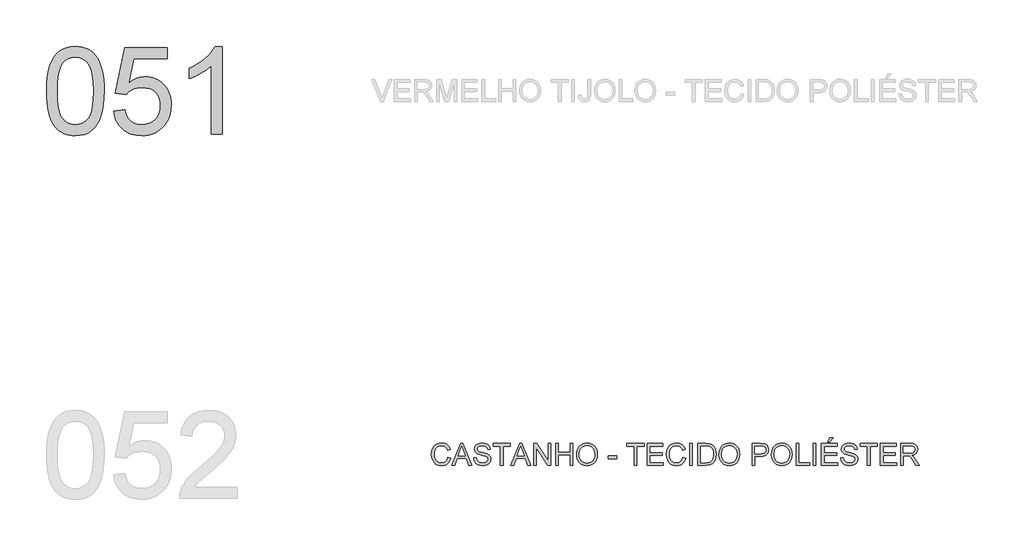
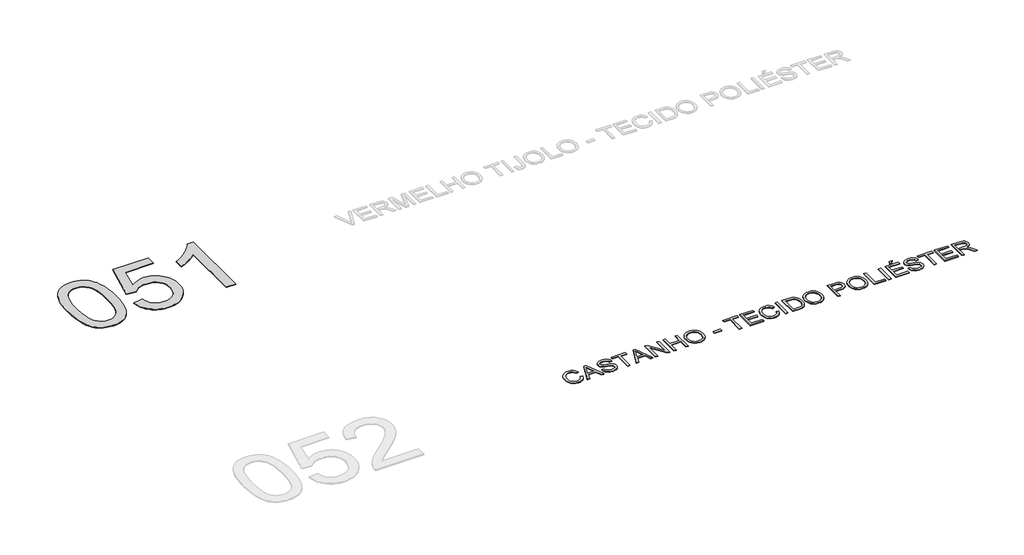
# One storey, part 23 of 35: 2 proxies.
"""IFC4 building model written with IfcOpenShell, lengths in millimetres."""

import ifcopenshell
import ifcopenshell.guid

model = None  # the IFC model being written
_history = None  # IfcOwnerHistory: only IFC2X3 demands one
_inside = {}  # id of a spatial element -> (the spatial element, [elements in it])
_under = {}  # id of a project, library or spatial element -> (it, [spatial elements below it])
_declared = {}  # id of a project -> (the project, [libraries it declares])
_typed = {}  # id of a type object -> (the type object, [elements of that type])
_made_of = {}  # id of a material, layer set ... -> (it, [elements and type objects made of it])


def new_model(schema):
    """Start an empty IFC model of exactly this schema.

    Asked for "IFC4X3", IfcOpenShell would pick the latest addendum, in which some entities
    have other attributes; the version numbers below select the first issue.
    IFC2X3 requires an IfcOwnerHistory on every rooted entity: one is made here for all.
    """
    global model, _history
    if schema == "IFC4X3":
        model = ifcopenshell.file(schema_version=(4, 3, 0, 0))
    else:
        model = ifcopenshell.file(schema=schema)
    _inside.clear()
    _under.clear()
    _declared.clear()
    _typed.clear()
    _made_of.clear()
    _history = None
    if model.schema == "IFC2X3":
        org = make("IfcOrganization", Name="unknown")
        user = make(
            "IfcPersonAndOrganization",
            ThePerson=make("IfcPerson", FamilyName="unknown"),
            TheOrganization=org,
        )
        app = make(
            "IfcApplication",
            ApplicationDeveloper=org,
            Version="unknown",
            ApplicationFullName="unknown",
            ApplicationIdentifier="unknown",
        )
        _history = make(
            "IfcOwnerHistory",
            OwningUser=user,
            OwningApplication=app,
            ChangeAction="ADDED",
            CreationDate=0,
        )
    return model


def make(cls, **values):
    """One entity of the class cls with the attributes given. An attribute that is None is left unset."""
    return model.create_entity(
        cls, **{name: value for name, value in values.items() if value is not None}
    )


def rooted(cls, **values):
    """An entity with a GlobalId (a new one), such as an element, a storey or a relation."""
    return make(cls, GlobalId=ifcopenshell.guid.new(), OwnerHistory=_history, **values)


def si_unit(unit_type, name, prefix=None):
    """IfcSIUnit, for example si_unit("LENGTHUNIT", "METRE", prefix="MILLI")."""
    return make("IfcSIUnit", UnitType=unit_type, Prefix=prefix, Name=name)


def assignment(units):
    """IfcUnitAssignment: the units of a project."""
    return None if units is None else make("IfcUnitAssignment", Units=units)


def point(xyz):
    """IfcCartesianPoint."""
    return None if xyz is None else make("IfcCartesianPoint", Coordinates=xyz)


def direction(xyz):
    """IfcDirection."""
    return None if xyz is None else make("IfcDirection", DirectionRatios=xyz)


def frame(location, z_axis=None, x_axis=None):
    """IfcAxis2Placement3D, a coordinate frame: its origin and axes. An axis left out is left unset."""
    return make(
        "IfcAxis2Placement3D",
        Location=point(location),
        Axis=direction(z_axis),
        RefDirection=direction(x_axis),
    )


def origin():
    """The frame at (0, 0, 0) with its axes left unset."""
    return frame((0.0, 0.0, 0.0))


def origin_with_axes():
    """The frame at (0, 0, 0) with the z axis (0, 0, 1) and the x axis (1, 0, 0) written out."""
    return frame((0.0, 0.0, 0.0), z_axis=(0.0, 0.0, 1.0), x_axis=(1.0, 0.0, 0.0))


def place(relative_to, where):
    """IfcLocalPlacement: puts the frame where relative to a parent placement (None: the world)."""
    return make(
        "IfcLocalPlacement", PlacementRelTo=relative_to, RelativePlacement=where
    )


def context(
    kind, dimensions, precision=None, world=None, true_north=None, identifier=None
):
    """IfcGeometricRepresentationContext, for example the 3D "Model" context."""
    return make(
        "IfcGeometricRepresentationContext",
        ContextIdentifier=identifier,
        ContextType=kind,
        CoordinateSpaceDimension=dimensions,
        Precision=precision,
        WorldCoordinateSystem=world,
        TrueNorth=true_north,
    )


def project(units=None, contexts=None):
    """IfcProject with its units and contexts."""
    return rooted(
        "IfcProject",
        Name="project",
        RepresentationContexts=contexts,
        UnitsInContext=assignment(units),
    )


def spatial(cls, under=None, at=None, **own):
    """A site, building, storey or space (cls), placed at a placement, below another one or the project."""
    s = rooted(cls, ObjectPlacement=at, **own)
    if under is not None:
        _under.setdefault(under.id(), (under, []))[1].append(s)
    return s


def polyline(points):
    """IfcPolyline through the points."""
    return make("IfcPolyline", Points=[point(p) for p in points])


def outline(outer, holes=None, kind="AREA"):
    """IfcArbitraryClosedProfileDef: a profile drawn as a closed curve; with holes, ...WithVoids."""
    if holes is None:
        return make("IfcArbitraryClosedProfileDef", ProfileType=kind, OuterCurve=outer)
    return make(
        "IfcArbitraryProfileDefWithVoids",
        ProfileType=kind,
        OuterCurve=outer,
        InnerCurves=holes,
    )


def extrude(swept, where, along, depth):
    """IfcExtrudedAreaSolid: the profile swept, set in the frame where, extruded along a direction by depth."""
    return make(
        "IfcExtrudedAreaSolid",
        SweptArea=swept,
        Position=where,
        ExtrudedDirection=direction(along),
        Depth=depth,
    )


def shape(context_of_items, identifier, shape_type, items):
    """IfcShapeRepresentation: the items that make up one representation, for example the "Body"."""
    return make(
        "IfcShapeRepresentation",
        ContextOfItems=context_of_items,
        RepresentationIdentifier=identifier,
        RepresentationType=shape_type,
        Items=items,
    )


def made_of(thing, what):
    """Note that an element or type object is made of a material, layer set ...; save() writes the relation."""
    if what is not None:
        _made_of.setdefault(what.id(), (what, []))[1].append(thing)
    return thing


def element(
    cls,
    number,
    at=None,
    inside=None,
    cuts=None,
    type_object=None,
    material=None,
    context=None,
    identifier="Body",
    shape_type=None,
    held_by="IfcProductDefinitionShape",
    body=None,
    shapes=None,
    **own,
):
    """One element of the class cls, such as IfcWall. Its Tag is "e" and its number.

    at: its placement. inside: the storey or other place that contains it. cuts: it is an
    opening in that element (IfcRelVoidsElement). A single representation is given by context,
    identifier, shape_type and body (its items); several are given by shapes. held_by: the class
    of the entity that holds the representations. save() writes the other relations.
    """
    e = rooted(cls, Tag="e%d" % number, ObjectPlacement=at, **own)
    if body is not None:
        shapes = [shape(context, identifier, shape_type, body)]
    if shapes is not None:
        e.Representation = make(held_by, Representations=shapes)
    if inside is not None:
        _inside.setdefault(inside.id(), (inside, []))[1].append(e)
    if cuts is not None:
        rooted(
            "IfcRelVoidsElement", RelatingBuildingElement=cuts, RelatedOpeningElement=e
        )
    if type_object is not None:
        _typed.setdefault(type_object.id(), (type_object, []))[1].append(e)
    return made_of(e, material)


def aggregate(whole, parts):
    """IfcRelAggregates: a whole, such as a stair, and the parts it consists of."""
    return rooted("IfcRelAggregates", RelatingObject=whole, RelatedObjects=parts)


def save(model, path):
    """Write the relations noted so far, then the file.

    IfcRelAggregates (storeys below a building ...), IfcRelContainedInSpatialStructure (elements
    in a storey), IfcRelDefinesByType, IfcRelAssociatesMaterial and IfcRelDeclares: one each for
    every whole, place, type object, material and project.
    """
    for whole, parts in _under.values():
        aggregate(whole, parts)
    for where, things in _inside.values():
        rooted(
            "IfcRelContainedInSpatialStructure",
            RelatedElements=things,
            RelatingStructure=where,
        )
    for kind, things in _typed.values():
        rooted("IfcRelDefinesByType", RelatedObjects=things, RelatingType=kind)
    for what, things in _made_of.values():
        rooted("IfcRelAssociatesMaterial", RelatedObjects=things, RelatingMaterial=what)
    for by, libraries in _declared.values():
        rooted("IfcRelDeclares", RelatingContext=by, RelatedDefinitions=libraries)
    model.write(path)


model = new_model("IFC4")

# Units and contexts
model_context = context("Model", 3, world=origin())
ifc_project = project(units=[si_unit("LENGTHUNIT", "METRE", prefix="MILLI")], contexts=[model_context])

# Site, building, storey
site = spatial("IfcSite", under=ifc_project)
building = spatial("IfcBuilding", under=site)
storey = spatial("IfcBuildingStorey", under=building, Name="Marelli - Linha YOU - Planta Baixa", Elevation=0.0)

# Proxies
placement = place(None, origin())
element("IfcBuildingElementProxy", 1, Name="1200mm Arial", ObjectType="1200mm Arial", at=placement, inside=storey, context=model_context, shape_type="SweptSolid", body=[
    extrude(outline(polyline([(-25228.2202746, -24887.5405438), (-25225.4519626, -24786.1798571), (-25217.1470265, -24694.5864374), (-25203.3054665, -24612.7602846), (-25183.9272824, -24540.7013988), (-25159.0952477, -24477.8211688), (-25128.8921359, -24423.5309833), (-25093.317947, -24377.8308425), (-25052.3726809, -24340.7207462), (-25005.918382, -24312.0075565), (-24953.8170944, -24291.4981353), (-24896.0688182, -24279.1924825), (-24832.6735534, -24275.0905983), (-24785.032835, -24277.5186194), (-24739.8201378, -24284.8026829), (-24697.0354618, -24296.9427888), (-24656.6788069, -24313.938937), (-24619.7250605, -24335.5060189), (-24587.1491098, -24361.3589261), (-24558.9509549, -24391.4976586), (-24535.1305957, -24425.9222163), (-24514.4924157, -24464.4946435), (-24495.8407986, -24507.0769844), (-24464.4972526, -24604.2714076), (-24452.5226937, -24661.4310726), (-24443.9694373, -24727.6958169), (-24438.8374834, -24803.0656407), (-24437.1268322, -24887.5405438), (-24439.867553, -24988.2574371), (-24448.0897156, -25079.3910043), (-24461.7933199, -25160.9412456), (-24480.978366, -25232.9081609), (-24505.6172626, -25295.8159821), (-24535.6824187, -25350.188941), (-24571.1738342, -25396.0270376), (-24612.0915091, -25433.3302719), (-24658.6009903, -25462.2365997), (-24710.8678248, -25482.8839766), (-24768.8920125, -25495.2724028), (-24832.6735534, -25499.4018782), (-24875.3478648, -25497.6084535), (-24915.6677315, -25492.2281793), (-24953.6331534, -25483.2610557), (-24989.2441305, -25470.7070826), (-25022.5006629, -25454.5662601), (-25053.4027505, -25434.8385881), (-25081.9503933, -25411.5240666), (-25108.1435914, -25384.6226957), (-25136.286564, -25342.0265592), (-25160.6771403, -25293.8478134), (-25181.3153202, -25240.0864583), (-25198.2011038, -25180.742494), (-25211.334491, -25115.8159204), (-25220.7154819, -25045.3067375), (-25226.3440764, -24969.2149453), (-25228.2202746, -24887.5405438)]), holes=[polyline([(-25077.5358094, -24887.2462382), (-25073.1212254, -25018.2398197), (-25059.8774736, -25124.2726077), (-25049.9446597, -25167.9287043), (-25037.8045539, -25205.3446024), (-25023.4571561, -25236.5203023), (-25006.9024663, -25261.4558037), (-24969.5256556, -25299.6327578), (-24928.0285665, -25326.9020107), (-24882.4111991, -25343.2635624), (-24832.6735534, -25348.717413), (-24782.9359076, -25343.2451683), (-24737.3185402, -25326.8284343), (-24695.8214512, -25299.4672109), (-24658.4446405, -25261.1614981), (-24641.8899507, -25236.1662158), (-24627.5425529, -25204.9583263), (-24615.402447, -25167.5378296), (-24605.4696332, -25123.9047257), (-24592.2258813, -25018.0006964), (-24587.8112974, -24887.2462382), (-24592.0787285, -24759.7199446), (-24604.881022, -24655.5541577), (-24614.482742, -24612.2314542), (-24626.2181777, -24574.7488774), (-24640.0873289, -24543.1064273), (-24656.0901957, -24517.3041039), (-24692.841607, -24477.2601487), (-24734.8169427, -24448.6573236), (-24782.0162026, -24431.4956285), (-24834.4393869, -24425.7750635), (-24883.9195153, -24430.8150468), (-24928.7643305, -24445.9349968), (-24968.9738326, -24471.1349135), (-25004.5480215, -24506.4147968), (-25021.6545343, -24534.9624397), (-25036.4801787, -24568.954736), (-25049.0249547, -24608.3916859), (-25059.2888624, -24653.2732893), (-25072.9740726, -24759.3704567), (-25077.5358094, -24887.2462382)])]), origin_with_axes(), (0.0, 0.0, 1.0), 10.0),
    extrude(outline(polyline([(-24305.2779251, -25160.3618315), (-24154.5934599, -25141.5262733), (-24143.3362708, -25189.967135), (-24126.9287338, -25231.9884559), (-24105.3708489, -25267.590236), (-24078.6626161, -25296.7724753), (-24046.8592176, -25319.4983855), (-24010.0158358, -25335.7311786), (-23968.1324706, -25345.4708544), (-23921.2091221, -25348.717413), (-23863.8195309, -25344.2016615), (-23813.1989683, -25330.654407), (-23769.3474345, -25308.0756496), (-23732.2649294, -25276.4653891), (-23702.7791875, -25237.3871242), (-23681.7179433, -25192.4043532), (-23669.0811967, -25141.5170763), (-23664.8689479, -25084.7252933), (-23668.8144823, -25031.0513102), (-23680.6510855, -24983.3370154), (-23700.3787575, -24941.5824089), (-23727.9974983, -24905.7874908), (-23763.5992783, -24877.0743011), (-23807.2760682, -24856.5648798), (-23859.0278679, -24844.2592271), (-23918.8546774, -24840.1573429), (-23957.141996, -24841.7944177), (-23991.9528298, -24846.7056424), (-24023.2871787, -24854.8910168), (-24051.1450428, -24866.3505409), (-24098.4178792, -24896.4432881), (-24135.7579017, -24934.3351336), (-24286.4423669, -24915.4995755), (-24154.5934599, -24293.9261564), (-23570.6911571, -24293.9261564), (-23570.6911571, -24444.6106216), (-24032.7509431, -24444.6106216), (-24097.2038686, -24776.5873341), (-24044.0265262, -24738.4747594), (-23989.5615968, -24711.2514918), (-23933.8090805, -24694.9175312), (-23876.7689771, -24689.4728776), (-23839.3300863, -24691.1605363), (-23803.3857161, -24696.2235123), (-23768.9358665, -24704.6618055), (-23735.9805376, -24716.4754161), (-23704.5197292, -24731.664344), (-23674.5534414, -24750.2285891), (-23646.0816742, -24772.1681516), (-23619.1044277, -24797.4830314), (-23594.5138156, -24825.4512601), (-23573.2019517, -24855.3508693), (-23555.1688362, -24887.1818589), (-23540.4144689, -24920.944229), (-23528.9388499, -24956.6379796), (-23520.7419792, -24994.2631106), (-23515.8238568, -25033.8196222), (-23514.1844827, -25075.3075142), (-23520.0889887, -25153.3720736), (-23527.4696212, -25190.3626082), (-23537.8025067, -25225.9919794), (-23551.0876453, -25260.2601873), (-23567.3250369, -25293.1672317), (-23586.5146814, -25324.7131128), (-23608.656579, -25354.8978305), (-23638.6573557, -25388.7659667), (-23671.2700946, -25418.1183514), (-23706.4947956, -25442.9549846), (-23744.3314588, -25463.2758663), (-23784.7800842, -25479.0809965), (-23827.8406717, -25490.3703752), (-23873.5132214, -25497.1440025), (-23921.7977333, -25499.4018782), (-23999.55879, -25493.5985397), (-24035.6181234, -25486.3443667), (-24069.79666, -25476.1885243), (-24102.0943999, -25463.1310128), (-24132.5113431, -25447.171832), (-24161.0474896, -25428.3109819), (-24187.7028394, -25406.5484626), (-24212.0405327, -25382.3901119), (-24233.6237095, -25356.3417673), (-24252.4523698, -25328.4034291), (-24268.5265138, -25298.5750971), (-24281.8461413, -25266.8567713), (-24292.4112523, -25233.2484518), (-24305.2779251, -25160.3618315)])), origin_with_axes(), (0.0, 0.0, 1.0), 10.0),
    extrude(outline(polyline([(-22817.268831, -25480.5663201), (-22967.9532962, -25480.5663201), (-22967.9532962, -24541.1428572), (-23030.8611174, -24592.0209371), (-23110.6915103, -24642.8254407), (-23194.4950289, -24687.2287975), (-23269.3222267, -24718.9034373), (-23269.3222267, -24576.4595287), (-23208.171042, -24545.7965644), (-23150.9745888, -24512.0801796), (-23097.7328671, -24475.3103741), (-23048.4458768, -24435.4871482), (-23004.5851459, -24394.4499116), (-22967.6222024, -24354.0380744), (-22937.5570464, -24314.2516367), (-22914.3896777, -24275.0905983), (-22817.268831, -24275.0905983), (-22817.268831, -25480.5663201)])), origin_with_axes(), (0.0, 0.0, 1.0), 10.0),
])
element("IfcBuildingElementProxy", 2, Name="300mm Arial", ObjectType="300mm Arial", at=placement, inside=storey, context=model_context, shape_type="SweptSolid", body=[
    extrude(outline(polyline([(-19717.7261045, -29923.4390831), (-19680.0549882, -29933.1511677), (-19687.5091971, -29956.5783531), (-19697.4374125, -29977.0486868), (-19709.8396342, -29994.5621691), (-19724.7158624, -30009.1187997), (-19741.7304047, -30020.5622291), (-19760.5475687, -30028.7361071), (-19781.1673546, -30033.640434), (-19803.5897622, -30035.2752096), (-19847.2849462, -30030.3271968), (-19881.9854153, -30015.4831583), (-19908.5832836, -29991.2581289), (-19927.9706647, -29958.1671434), (-19939.8072679, -29919.2636224), (-19943.7528023, -29877.6009865), (-19939.2922331, -29833.6574821), (-19925.9105256, -29795.7104543), (-19904.3066554, -29764.9647166), (-19875.1795984, -29742.6250824), (-19840.6354791, -29729.0226457), (-19802.7804218, -29724.4885001), (-19761.4764708, -29730.3562179), (-19743.5077346, -29737.6908652), (-19727.3278246, -29747.9593714), (-19713.2034552, -29760.8904235), (-19701.401341, -29776.2127086), (-19684.7638777, -29814.0309777), (-19722.434994, -29823.0072984), (-19735.4948049, -29795.5357104), (-19753.3370816, -29776.6909552), (-19776.1825535, -29765.7924511), (-19804.2519498, -29762.1596164), (-19836.6071712, -29766.1879242), (-19863.1866454, -29778.2728478), (-19883.3557758, -29797.1451941), (-19896.479966, -29821.5357704), (-19903.681256, -29849.1085259), (-19906.081686, -29877.5274101), (-19903.2397976, -29912.3290468), (-19894.7141324, -29942.421794), (-19880.1827936, -29966.6560205), (-19859.3238844, -29983.8820949), (-19834.3171058, -29994.1735937), (-19807.3421585, -29997.6040933), (-19775.897445, -29992.931992), (-19749.6950499, -29978.9156879), (-19729.9121956, -29955.702334), (-19717.7261045, -29923.4390831)])), origin_with_axes(), (0.0, 0.0, 1.0), 10.0),
    extrude(outline(polyline([(-19663.3531456, -30030.5663201), (-19543.0557332, -29729.1973896), (-19510.9764232, -29729.1973896), (-19390.6790108, -30030.5663201), (-19430.4838427, -30030.5663201), (-19464.9911738, -29936.3885293), (-19589.114559, -29936.3885293), (-19623.5483137, -30030.5663201), (-19663.3531456, -30030.5663201)]), holes=[polyline([(-19575.282196, -29898.717413), (-19478.7499604, -29898.717413), (-19505.8996517, -29824.6259792), (-19527.0160782, -29766.8685059), (-19545.77806, -29818.1512561), (-19575.282196, -29898.717413)])]), origin_with_axes(), (0.0, 0.0, 1.0), 10.0),
    extrude(outline(polyline([(-19364.5593891, -29926.9707502), (-19326.8882728, -29926.9707502), (-19322.5656594, -29947.8756446), (-19314.748167, -29964.6786547), (-19302.5528788, -29978.0143771), (-19285.0968782, -29988.517408), (-19263.7597225, -29995.332422), (-19239.9209692, -29997.6040933), (-19218.9333013, -29995.884245), (-19200.5575957, -29990.7247), (-19185.6675719, -29982.5577197), (-19175.1369498, -29971.8155654), (-19168.8737588, -29959.4823215), (-19166.7860285, -29946.5420724), (-19168.349527, -29933.932917), (-19173.0400224, -29923.0344129), (-19182.5681661, -29913.7361954), (-19198.6446093, -29905.9279001), (-19253.4958148, -29891.5437141), (-19289.5022651, -29882.0247675), (-19312.540875, -29872.9656733), (-19331.2936597, -29860.2921386), (-19344.5833968, -29844.9330653), (-19352.5020567, -29827.2195472), (-19355.1416101, -29807.4826782), (-19351.8766573, -29785.4189555), (-19342.0817992, -29764.845155), (-19326.0145531, -29747.4075484), (-19303.9324363, -29734.7524077), (-19277.4265386, -29727.054477), (-19248.0879495, -29724.4885001), (-19216.3029451, -29727.1740386), (-19188.4910662, -29735.2306543), (-19165.6455943, -29748.4928003), (-19148.7598108, -29766.7949295), (-19138.0728388, -29788.9966079), (-19133.8238018, -29813.9574013), (-19171.4949181, -29813.9574013), (-19178.4110996, -29791.4798114), (-19192.8320738, -29775.2562154), (-19215.364846, -29765.4337661), (-19246.6164215, -29762.1596164), (-19278.603761, -29765.3969779), (-19300.547922, -29775.1090626), (-19313.2398508, -29789.4012781), (-19317.4704938, -29806.3790322), (-19314.4722555, -29820.8551887), (-19305.4775407, -29832.4986539), (-19284.2139614, -29842.9097143), (-19243.9676711, -29853.541504), (-19202.4337939, -29863.6398648), (-19177.3074536, -29872.4506385), (-19155.8323421, -29886.1174547), (-19140.8503479, -29902.9848441), (-19132.0487711, -29922.868866), (-19129.1149122, -29945.5855792), (-19132.4902295, -29968.8081301), (-19142.6161814, -29990.6511236), (-19159.0789007, -30009.4498935), (-19181.4645201, -30023.539774), (-19208.3842851, -30032.3413507), (-19238.4494412, -30035.2752096), (-19275.3572024, -30032.1114244), (-19305.7350581, -30022.620069), (-19329.9324963, -30006.764355), (-19348.2990049, -29984.5074943), (-19360.0896229, -29957.3945912), (-19364.5593891, -29926.9707502)])), origin_with_axes(), (0.0, 0.0, 1.0), 10.0),
    extrude(outline(polyline([(-18997.2660051, -30030.5663201), (-18997.2660051, -29766.8685059), (-19096.1526855, -29766.8685059), (-19096.1526855, -29729.1973896), (-18860.7082085, -29729.1973896), (-18860.7082085, -29766.8685059), (-18959.5948888, -29766.8685059), (-18959.5948888, -30030.5663201), (-18997.2660051, -30030.5663201)])), origin_with_axes(), (0.0, 0.0, 1.0), 10.0),
    extrude(outline(polyline([(-18853.424145, -30030.5663201), (-18733.1267326, -29729.1973896), (-18701.0474226, -29729.1973896), (-18580.7500102, -30030.5663201), (-18620.5548421, -30030.5663201), (-18655.0621732, -29936.3885293), (-18779.1855584, -29936.3885293), (-18813.6193132, -30030.5663201), (-18853.424145, -30030.5663201)]), holes=[polyline([(-18765.3531954, -29898.717413), (-18668.8209599, -29898.717413), (-18695.9706511, -29824.6259792), (-18717.0870776, -29766.8685059), (-18735.8490594, -29818.1512561), (-18765.3531954, -29898.717413)])]), origin_with_axes(), (0.0, 0.0, 1.0), 10.0),
    extrude(outline(polyline([(-18540.5037199, -30030.5663201), (-18540.5037199, -29729.1973896), (-18500.1838533, -29729.1973896), (-18342.7303593, -29967.9528045), (-18342.7303593, -29729.1973896), (-18305.059243, -29729.1973896), (-18305.059243, -30030.5663201), (-18345.3791097, -30030.5663201), (-18502.8326036, -29791.7373288), (-18502.8326036, -30030.5663201), (-18540.5037199, -30030.5663201)])), origin_with_axes(), (0.0, 0.0, 1.0), 10.0),
    extrude(outline(polyline([(-18239.1347895, -30030.5663201), (-18239.1347895, -29729.1973896), (-18201.4636732, -29729.1973896), (-18201.4636732, -29851.6285176), (-18041.3614289, -29851.6285176), (-18041.3614289, -29729.1973896), (-18003.6903126, -29729.1973896), (-18003.6903126, -30030.5663201), (-18041.3614289, -30030.5663201), (-18041.3614289, -29889.2996339), (-18201.4636732, -29889.2996339), (-18201.4636732, -30030.5663201), (-18239.1347895, -30030.5663201)])), origin_with_axes(), (0.0, 0.0, 1.0), 10.0),
    extrude(outline(polyline([(-17951.8925277, -29883.8549804), (-17949.381733, -29848.5061192), (-17941.8493492, -29817.213157), (-17929.2953761, -29789.9760937), (-17911.7198138, -29766.7949295), (-17890.1757244, -29748.2858666), (-17865.7161703, -29735.0651074), (-17838.3411513, -29727.1326519), (-17808.0506675, -29724.4885001), (-17768.5217472, -29729.454907), (-17733.0763169, -29744.3541278), (-17703.6457573, -29768.1376988), (-17682.1614488, -29799.7571563), (-17669.0280616, -29837.68579), (-17664.6502658, -29880.3968896), (-17669.2579878, -29923.6782064), (-17683.0811538, -29962.140269), (-17705.3564086, -29993.8149087), (-17735.3203971, -30016.733957), (-17770.4623247, -30030.6398965), (-17808.2713967, -30035.2752096), (-17848.4073224, -30030.1524528), (-17884.0550877, -30014.7841825), (-17913.412071, -29990.5591531), (-17934.6756503, -29958.8661192), (-17947.5883083, -29922.3998164), (-17951.8925277, -29883.8549804)]), holes=[polyline([(-17914.2214113, -29884.2228624), (-17912.3383154, -29909.1974513), (-17906.6890275, -29931.3669401), (-17897.2735477, -29950.7313286), (-17884.0918759, -29967.2906169), (-17868.0683158, -29980.5527628), (-17850.1271707, -29990.0257242), (-17830.2684408, -29995.709501), (-17808.4921259, -29997.6040933), (-17786.3433306, -29995.6911069), (-17766.2500758, -29989.9521478), (-17748.2123618, -29980.3872159), (-17732.2301883, -29966.9963113), (-17719.1450856, -29950.0875351), (-17709.7985837, -29929.9689885), (-17704.1906825, -29906.6406715), (-17702.3213821, -29880.102584), (-17705.5219555, -29846.7540812), (-17715.1236756, -29817.9305269), (-17730.878222, -29794.358488), (-17752.5372745, -29776.7645316), (-17778.6660932, -29765.8108452), (-17807.8299383, -29762.1596164), (-17828.8497958, -29763.9185522), (-17848.3521401, -29769.1953595), (-17866.3369712, -29777.9900385), (-17882.804289, -29790.302589), (-17896.54928, -29806.7262208), (-17906.3671308, -29827.8541437), (-17912.2578412, -29853.6863575), (-17914.2214113, -29884.2228624)])]), origin_with_axes(), (0.0, 0.0, 1.0), 10.0),
    extrude(outline(polyline([(-17518.6746901, -29941.0974188), (-17518.6746901, -29903.4263025), (-17400.9524517, -29903.4263025), (-17400.9524517, -29941.0974188), (-17518.6746901, -29941.0974188)])), origin_with_axes(), (0.0, 0.0, 1.0), 10.0),
    extrude(outline(polyline([(-17160.7990852, -30030.5663201), (-17160.7990852, -29766.8685059), (-17259.6857655, -29766.8685059), (-17259.6857655, -29729.1973896), (-17024.2412886, -29729.1973896), (-17024.2412886, -29766.8685059), (-17123.1279689, -29766.8685059), (-17123.1279689, -30030.5663201), (-17160.7990852, -30030.5663201)])), origin_with_axes(), (0.0, 0.0, 1.0), 10.0),
    extrude(outline(polyline([(-16981.8612828, -30030.5663201), (-16981.8612828, -29729.1973896), (-16765.252364, -29729.1973896), (-16765.252364, -29766.8685059), (-16944.1901665, -29766.8685059), (-16944.1901665, -29856.3374072), (-16774.6701431, -29856.3374072), (-16774.6701431, -29894.0085235), (-16944.1901665, -29894.0085235), (-16944.1901665, -29992.8952038), (-16760.5434745, -29992.8952038), (-16760.5434745, -30030.5663201), (-16981.8612828, -30030.5663201)])), origin_with_axes(), (0.0, 0.0, 1.0), 10.0),
    extrude(outline(polyline([(-16492.1367708, -29923.4390831), (-16454.4656545, -29933.1511677), (-16461.9198634, -29956.5783531), (-16471.8480788, -29977.0486868), (-16484.2503005, -29994.5621691), (-16499.1265287, -30009.1187997), (-16516.141071, -30020.5622291), (-16534.958235, -30028.7361071), (-16555.5780209, -30033.640434), (-16578.0004285, -30035.2752096), (-16621.6956124, -30030.3271968), (-16656.3960816, -30015.4831583), (-16682.9939499, -29991.2581289), (-16702.381331, -29958.1671434), (-16714.2179342, -29919.2636224), (-16718.1634686, -29877.6009865), (-16713.7028994, -29833.6574821), (-16700.3211919, -29795.7104543), (-16678.7173217, -29764.9647166), (-16649.5902647, -29742.6250824), (-16615.0461454, -29729.0226457), (-16577.1910881, -29724.4885001), (-16535.8871371, -29730.3562179), (-16517.9184009, -29737.6908652), (-16501.7384909, -29747.9593714), (-16487.6141215, -29760.8904235), (-16475.8120073, -29776.2127086), (-16459.174544, -29814.0309777), (-16496.8456603, -29823.0072984), (-16509.9054712, -29795.5357104), (-16527.7477479, -29776.6909552), (-16550.5932198, -29765.7924511), (-16578.6626161, -29762.1596164), (-16611.0178375, -29766.1879242), (-16637.5973117, -29778.2728478), (-16657.7664421, -29797.1451941), (-16670.8906322, -29821.5357704), (-16678.0919223, -29849.1085259), (-16680.4923523, -29877.5274101), (-16677.6504639, -29912.3290468), (-16669.1247987, -29942.421794), (-16654.5934599, -29966.6560205), (-16633.7345507, -29983.8820949), (-16608.7277721, -29994.1735937), (-16581.7528248, -29997.6040933), (-16550.3081113, -29992.931992), (-16524.1057162, -29978.9156879), (-16504.3228619, -29955.702334), (-16492.1367708, -29923.4390831)])), origin_with_axes(), (0.0, 0.0, 1.0), 10.0),
    extrude(outline(polyline([(-16397.95898, -30030.5663201), (-16397.95898, -29729.1973896), (-16360.2878637, -29729.1973896), (-16360.2878637, -30030.5663201), (-16397.95898, -30030.5663201)])), origin_with_axes(), (0.0, 0.0, 1.0), 10.0),
    extrude(outline(polyline([(-16284.9456311, -30030.5663201), (-16284.9456311, -29729.1973896), (-16180.9821793, -29729.1973896), (-16127.1978316, -29733.5383972), (-16103.1751373, -29741.9077126), (-16082.9048394, -29755.0962821), (-16062.0643243, -29778.0521186), (-16047.2202858, -29806.5997614), (-16038.3359356, -29840.1873876), (-16035.3744856, -29878.2631741), (-16037.3794425, -29910.6091985), (-16043.3943131, -29939.0740679), (-16052.5545748, -29963.3082943), (-16063.9957048, -29982.9623899), (-16077.1658802, -29998.477813), (-16091.513278, -30010.2960221), (-16107.9851944, -30019.0608107), (-16127.5289254, -30025.4159721), (-16175.9789841, -30030.5663201), (-16284.9456311, -30030.5663201)]), holes=[polyline([(-16247.2745148, -29992.8952038), (-16180.6142973, -29992.8952038), (-16153.0415417, -29991.5340404), (-16132.1274503, -29987.4505502), (-16116.3453127, -29980.8838566), (-16104.1684187, -29972.0730828), (-16091.0810167, -29955.7667134), (-16081.2493704, -29934.6594839), (-16075.096544, -29908.6594239), (-16073.0456019, -29877.6745629), (-16077.0647127, -29836.6189322), (-16089.1220451, -29806.3054558), (-16106.9367307, -29785.4833349), (-16128.2279012, -29772.9017706), (-16149.8961507, -29768.3768221), (-16181.6443669, -29766.8685059), (-16247.2745148, -29766.8685059), (-16247.2745148, -29992.8952038)])]), origin_with_axes(), (0.0, 0.0, 1.0), 10.0),
    extrude(outline(polyline([(-15997.7033693, -29883.8549804), (-15995.1925747, -29848.5061192), (-15987.6601908, -29817.213157), (-15975.1062177, -29789.9760937), (-15957.5306554, -29766.7949295), (-15935.9865661, -29748.2858666), (-15911.5270119, -29735.0651074), (-15884.1519929, -29727.1326519), (-15853.8615092, -29724.4885001), (-15814.3325888, -29729.454907), (-15778.8871585, -29744.3541278), (-15749.4565989, -29768.1376988), (-15727.9722904, -29799.7571563), (-15714.8389032, -29837.68579), (-15710.4611074, -29880.3968896), (-15715.0688294, -29923.6782064), (-15728.8919954, -29962.140269), (-15751.1672502, -29993.8149087), (-15781.1312387, -30016.733957), (-15816.2731663, -30030.6398965), (-15854.0822384, -30035.2752096), (-15894.218164, -30030.1524528), (-15929.8659294, -30014.7841825), (-15959.2229126, -29990.5591531), (-15980.4864919, -29958.8661192), (-15993.3991499, -29922.3998164), (-15997.7033693, -29883.8549804)]), holes=[polyline([(-15960.032253, -29884.2228624), (-15958.149157, -29909.1974513), (-15952.4998691, -29931.3669401), (-15943.0843893, -29950.7313286), (-15929.9027176, -29967.2906169), (-15913.8791574, -29980.5527628), (-15895.9380124, -29990.0257242), (-15876.0792824, -29995.709501), (-15854.3029676, -29997.6040933), (-15832.1541722, -29995.6911069), (-15812.0609175, -29989.9521478), (-15794.0232034, -29980.3872159), (-15778.04103, -29966.9963113), (-15764.9559272, -29950.0875351), (-15755.6094253, -29929.9689885), (-15750.0015241, -29906.6406715), (-15748.1322237, -29880.102584), (-15751.3327971, -29846.7540812), (-15760.9345172, -29817.9305269), (-15776.6890636, -29794.358488), (-15798.3481161, -29776.7645316), (-15824.4769348, -29765.8108452), (-15853.64078, -29762.1596164), (-15874.6606375, -29763.9185522), (-15894.1629817, -29769.1953595), (-15912.1478128, -29777.9900385), (-15928.6151306, -29790.302589), (-15942.3601216, -29806.7262208), (-15952.1779724, -29827.8541437), (-15958.0686828, -29853.6863575), (-15960.032253, -29884.2228624)])]), origin_with_axes(), (0.0, 0.0, 1.0), 10.0),
    extrude(outline(polyline([(-15540.9410841, -30030.5663201), (-15540.9410841, -29729.1973896), (-15429.2521103, -29729.1973896), (-15384.2233541, -29732.0668692), (-15364.1461942, -29737.4287493), (-15347.6190956, -29746.1567496), (-15334.3109644, -29758.6463433), (-15323.8907069, -29775.2930036), (-15317.1584664, -29794.9287051), (-15314.9143862, -29816.3854225), (-15316.4296002, -29834.8852883), (-15320.9752421, -29851.9044291), (-15328.5513119, -29867.4428449), (-15339.1578097, -29881.5005356), (-15353.7190389, -29893.1531978), (-15373.1593031, -29901.476528), (-15397.4786023, -29906.470526), (-15426.6769364, -29908.1351921), (-15503.2699678, -29908.1351921), (-15503.2699678, -30030.5663201), (-15540.9410841, -30030.5663201)]), holes=[polyline([(-15503.2699678, -29870.4640758), (-15424.4696444, -29870.4640758), (-15391.0659592, -29867.005985), (-15368.9930395, -29856.6317127), (-15356.6873868, -29839.9850525), (-15352.5855025, -29817.7097977), (-15355.0043267, -29800.7872259), (-15362.260799, -29786.5134045), (-15373.4536087, -29775.7712502), (-15387.6814449, -29769.4436799), (-15425.3525612, -29766.8685059), (-15503.2699678, -29766.8685059), (-15503.2699678, -29870.4640758)])]), origin_with_axes(), (0.0, 0.0, 1.0), 10.0),
    extrude(outline(polyline([(-15277.2432699, -29883.8549804), (-15274.7324753, -29848.5061192), (-15267.2000915, -29817.213157), (-15254.6461184, -29789.9760937), (-15237.070556, -29766.7949295), (-15215.5264667, -29748.2858666), (-15191.0669126, -29735.0651074), (-15163.6918936, -29727.1326519), (-15133.4014098, -29724.4885001), (-15093.8724894, -29729.454907), (-15058.4270592, -29744.3541278), (-15028.9964996, -29768.1376988), (-15007.5121911, -29799.7571563), (-14994.3788038, -29837.68579), (-14990.0010081, -29880.3968896), (-14994.6087301, -29923.6782064), (-15008.431896, -29962.140269), (-15030.7071509, -29993.8149087), (-15060.6711394, -30016.733957), (-15095.8130669, -30030.6398965), (-15133.622139, -30035.2752096), (-15173.7580647, -30030.1524528), (-15209.40583, -30014.7841825), (-15238.7628132, -29990.5591531), (-15260.0263925, -29958.8661192), (-15272.9390506, -29922.3998164), (-15277.2432699, -29883.8549804)]), holes=[polyline([(-15239.5721536, -29884.2228624), (-15237.6890577, -29909.1974513), (-15232.0397698, -29931.3669401), (-15222.6242899, -29950.7313286), (-15209.4426182, -29967.2906169), (-15193.4190581, -29980.5527628), (-15175.477913, -29990.0257242), (-15155.6191831, -29995.709501), (-15133.8428682, -29997.6040933), (-15111.6940728, -29995.6911069), (-15091.6008181, -29989.9521478), (-15073.563104, -29980.3872159), (-15057.5809306, -29966.9963113), (-15044.4958279, -29950.0875351), (-15035.1493259, -29929.9689885), (-15029.5414248, -29906.6406715), (-15027.6721244, -29880.102584), (-15030.8726978, -29846.7540812), (-15040.4744178, -29817.9305269), (-15056.2289643, -29794.358488), (-15077.8880167, -29776.7645316), (-15104.0168354, -29765.8108452), (-15133.1806806, -29762.1596164), (-15154.2005381, -29763.9185522), (-15173.7028824, -29769.1953595), (-15191.6877134, -29777.9900385), (-15208.1550312, -29790.302589), (-15221.9000223, -29806.7262208), (-15231.717873, -29827.8541437), (-15237.6085835, -29853.6863575), (-15239.5721536, -29884.2228624)])]), origin_with_axes(), (0.0, 0.0, 1.0), 10.0),
    extrude(outline(polyline([(-14938.2032232, -30030.5663201), (-14938.2032232, -29729.1973896), (-14900.5321069, -29729.1973896), (-14900.5321069, -29992.8952038), (-14749.8476416, -29992.8952038), (-14749.8476416, -30030.5663201), (-14938.2032232, -30030.5663201)])), origin_with_axes(), (0.0, 0.0, 1.0), 10.0),
    extrude(outline(polyline([(-14702.7587463, -30030.5663201), (-14702.7587463, -29729.1973896), (-14665.0876299, -29729.1973896), (-14665.0876299, -30030.5663201), (-14702.7587463, -30030.5663201)])), origin_with_axes(), (0.0, 0.0, 1.0), 10.0),
    extrude(outline(polyline([(-14589.7453973, -30030.5663201), (-14589.7453973, -29729.1973896), (-14373.1364786, -29729.1973896), (-14373.1364786, -29766.8685059), (-14552.074281, -29766.8685059), (-14552.074281, -29856.3374072), (-14382.5542577, -29856.3374072), (-14382.5542577, -29894.0085235), (-14552.074281, -29894.0085235), (-14552.074281, -29992.8952038), (-14368.427589, -29992.8952038), (-14368.427589, -30030.5663201), (-14589.7453973, -30030.5663201)])), origin_with_axes(), (0.0, 0.0, 1.0), 10.0),
    extrude(outline(polyline([(-14504.9853856, -29710.3618315), (-14476.7320484, -29653.855157), (-14429.643153, -29653.855157), (-14476.7320484, -29710.3618315), (-14504.9853856, -29710.3618315)])), origin_with_axes(), (0.0, 0.0, 1.0), 10.0),
    extrude(outline(polyline([(-14326.0475832, -29926.9707502), (-14288.3764669, -29926.9707502), (-14284.0538534, -29947.8756446), (-14276.236361, -29964.6786547), (-14264.0410729, -29978.0143771), (-14246.5850722, -29988.517408), (-14225.2479165, -29995.332422), (-14201.4091632, -29997.6040933), (-14180.4214954, -29995.884245), (-14162.0457897, -29990.7247), (-14147.155766, -29982.5577197), (-14136.6251439, -29971.8155654), (-14130.3619529, -29959.4823215), (-14128.2742226, -29946.5420724), (-14129.8377211, -29933.932917), (-14134.5282165, -29923.0344129), (-14144.0563602, -29913.7361954), (-14160.1328034, -29905.9279001), (-14214.9840088, -29891.5437141), (-14250.9904591, -29882.0247675), (-14274.0290691, -29872.9656733), (-14292.7818538, -29860.2921386), (-14306.0715909, -29844.9330653), (-14313.9902508, -29827.2195472), (-14316.6298041, -29807.4826782), (-14313.3648514, -29785.4189555), (-14303.5699933, -29764.845155), (-14287.5027471, -29747.4075484), (-14265.4206304, -29734.7524077), (-14238.9147326, -29727.054477), (-14209.5761435, -29724.4885001), (-14177.7911391, -29727.1740386), (-14149.9792603, -29735.2306543), (-14127.1337884, -29748.4928003), (-14110.2480048, -29766.7949295), (-14099.5610329, -29788.9966079), (-14095.3119958, -29813.9574013), (-14132.9831121, -29813.9574013), (-14139.8992936, -29791.4798114), (-14154.3202678, -29775.2562154), (-14176.85304, -29765.4337661), (-14208.1046155, -29762.1596164), (-14240.091955, -29765.3969779), (-14262.036116, -29775.1090626), (-14274.7280449, -29789.4012781), (-14278.9586878, -29806.3790322), (-14275.9604495, -29820.8551887), (-14266.9657348, -29832.4986539), (-14245.7021554, -29842.9097143), (-14205.4558652, -29853.541504), (-14163.9219879, -29863.6398648), (-14138.7956476, -29872.4506385), (-14117.3205362, -29886.1174547), (-14102.3385419, -29902.9848441), (-14093.5369652, -29922.868866), (-14090.6031063, -29945.5855792), (-14093.9784236, -29968.8081301), (-14104.1043755, -29990.6511236), (-14120.5670948, -30009.4498935), (-14142.9527142, -30023.539774), (-14169.8724792, -30032.3413507), (-14199.9376352, -30035.2752096), (-14236.8453964, -30032.1114244), (-14267.2232522, -30022.620069), (-14291.4206904, -30006.764355), (-14309.787199, -29984.5074943), (-14321.577817, -29957.3945912), (-14326.0475832, -29926.9707502)])), origin_with_axes(), (0.0, 0.0, 1.0), 10.0),
    extrude(outline(polyline([(-13958.7541992, -30030.5663201), (-13958.7541992, -29766.8685059), (-14057.6408795, -29766.8685059), (-14057.6408795, -29729.1973896), (-13822.1964026, -29729.1973896), (-13822.1964026, -29766.8685059), (-13921.0830829, -29766.8685059), (-13921.0830829, -30030.5663201), (-13958.7541992, -30030.5663201)])), origin_with_axes(), (0.0, 0.0, 1.0), 10.0),
    extrude(outline(polyline([(-13779.8163968, -30030.5663201), (-13779.8163968, -29729.1973896), (-13563.207478, -29729.1973896), (-13563.207478, -29766.8685059), (-13742.1452804, -29766.8685059), (-13742.1452804, -29856.3374072), (-13572.6252571, -29856.3374072), (-13572.6252571, -29894.0085235), (-13742.1452804, -29894.0085235), (-13742.1452804, -29992.8952038), (-13558.4985885, -29992.8952038), (-13558.4985885, -30030.5663201), (-13779.8163968, -30030.5663201)])), origin_with_axes(), (0.0, 0.0, 1.0), 10.0),
    extrude(outline(polyline([(-13501.991914, -30030.5663201), (-13501.991914, -29729.1973896), (-13372.1295697, -29729.1973896), (-13337.2267654, -29731.2299376), (-13311.8337107, -29737.3275817), (-13293.274064, -29748.5847708), (-13278.8714839, -29766.0959537), (-13269.6284488, -29787.8101885), (-13266.5474371, -29811.6765329), (-13271.6517998, -29841.3646099), (-13286.9648878, -29865.9759154), (-13298.564667, -29876.0052983), (-13312.9465537, -29884.0205273), (-13350.05665, -29894.0085235), (-13328.6459179, -29910.1217548), (-13298.1117123, -29948.8965171), (-13247.8590317, -30030.5663201), (-13291.6369892, -30030.5663201), (-13330.8532098, -29968.0999573), (-13359.1801235, -29926.750021), (-13379.0825394, -29907.2154871), (-13396.9983926, -29900.0417882), (-13418.8505831, -29898.717413), (-13464.3207977, -29898.717413), (-13464.3207977, -30030.5663201), (-13501.991914, -30030.5663201)]), holes=[polyline([(-13464.3207977, -29861.0462967), (-13380.0022444, -29861.0462967), (-13355.7864121, -29859.7127245), (-13336.9968392, -29855.7120078), (-13322.8517764, -29848.7774322), (-13312.5694747, -29838.6422832), (-13306.3062837, -29826.3826157), (-13304.2185534, -29813.0744845), (-13308.200876, -29794.6987789), (-13320.1478438, -29779.8915286), (-13340.7032503, -29770.1242616), (-13370.5108889, -29766.8685059), (-13464.3207977, -29766.8685059), (-13464.3207977, -29861.0462967)])]), origin_with_axes(), (0.0, 0.0, 1.0), 10.0),
])

save(model, "model.ifc")
